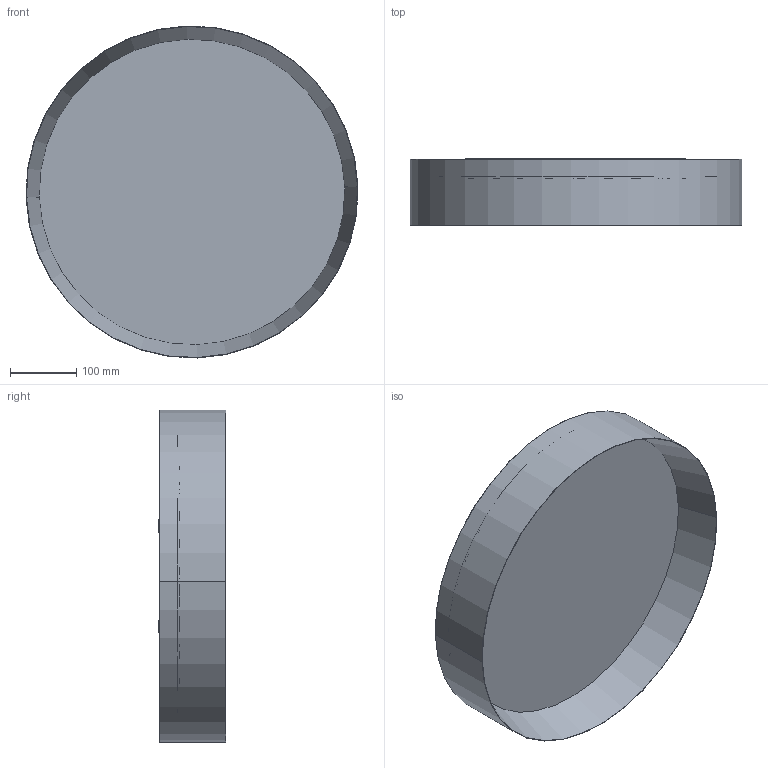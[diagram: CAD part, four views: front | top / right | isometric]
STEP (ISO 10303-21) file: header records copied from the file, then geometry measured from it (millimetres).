
FILE_DESCRIPTION((''),'2;1');
FILE_NAME('PROFILO_500_T','2026-02-26T09:00:26',('Minervini'),(''),'CREO PARAMETRIC BY PTC INC, 2025010','CREO PARAMETRIC BY PTC INC, 2025010','');
FILE_SCHEMA(('CONFIG_CONTROL_DESIGN'));
Length unit declared in the file: millimetre
Products named in the file (1): PROFILO_500_T
Bounding box: 499.73 x 101.59 x 499.73 mm (x, y, z)
Surface area: 713858.2 mm2 (no closed solid volume)
Topology: 0 solids, 32 shells, 47 faces, 456 edges, 438 vertices
Faces by surface type: plane 25, cylinder 18, cone 2, torus 2
Entity records: 5629 total; most frequent: CARTESIAN_POINT 2348, DIRECTION 673, ORIENTED_EDGE 476, EDGE_CURVE 456, VERTEX_POINT 438, VECTOR 259, LINE 259, AXIS2_PLACEMENT_3D 207
